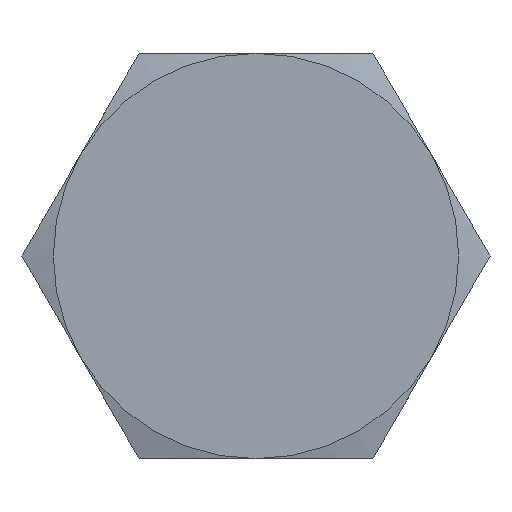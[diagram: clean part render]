
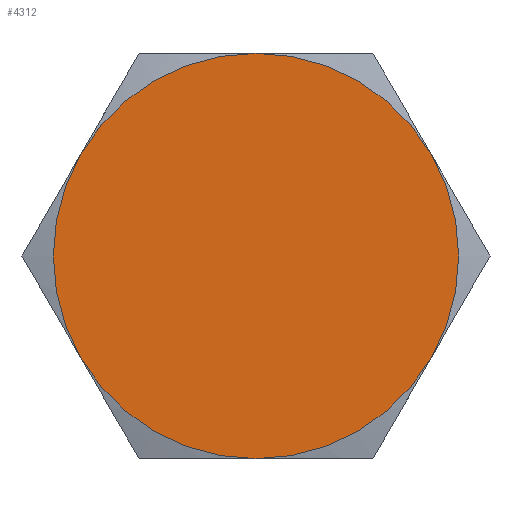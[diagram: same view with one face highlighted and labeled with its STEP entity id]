
A CAD part, left-side view. The second image highlights one B-rep face of the part: STEP entity #4312.
In plain terms, the highlighted planar face has unit normal (-1, 0, 0).
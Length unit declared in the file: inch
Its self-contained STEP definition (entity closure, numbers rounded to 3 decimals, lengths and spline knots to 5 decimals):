
#3922=CARTESIAN_POINT('',(-0.5,-0.70365,0.40625));
#3923=VERTEX_POINT('',#3922);
#3937=CARTESIAN_POINT('',(-0.5,0.0,0.8125));
#3938=VERTEX_POINT('',#3937);
#3952=CARTESIAN_POINT('',(-0.5,0.0,0.));
#3953=DIRECTION('',(-1.0,0.0,0.0));
#3954=DIRECTION('',(0.0,0.0,-1.0));
#3955=AXIS2_PLACEMENT_3D('',#3952,#3953,#3954);
#3956=CIRCLE('',#3955,0.8125);
#3957=EDGE_CURVE('',#3923,#3938,#3956,.T.);
#3969=CARTESIAN_POINT('',(-0.5,-0.70365,-0.40625));
#3970=VERTEX_POINT('',#3969);
#3997=CARTESIAN_POINT('',(-0.5,0.0,0.));
#3998=DIRECTION('',(-1.0,0.0,0.0));
#3999=DIRECTION('',(0.0,0.0,-1.0));
#4000=AXIS2_PLACEMENT_3D('',#3997,#3998,#3999);
#4001=CIRCLE('',#4000,0.8125);
#4002=EDGE_CURVE('',#3970,#3923,#4001,.T.);
#4014=CARTESIAN_POINT('',(-0.5,0.0,-0.8125));
#4015=VERTEX_POINT('',#4014);
#4042=CARTESIAN_POINT('',(-0.5,0.0,0.));
#4043=DIRECTION('',(-1.0,0.0,0.0));
#4044=DIRECTION('',(0.0,0.0,-1.0));
#4045=AXIS2_PLACEMENT_3D('',#4042,#4043,#4044);
#4046=CIRCLE('',#4045,0.8125);
#4047=EDGE_CURVE('',#4015,#3970,#4046,.T.);
#4072=CARTESIAN_POINT('',(-0.5,0.70365,-0.40625));
#4073=VERTEX_POINT('',#4072);
#4074=CARTESIAN_POINT('',(-0.5,0.0,0.));
#4075=DIRECTION('',(-1.0,0.0,0.0));
#4076=DIRECTION('',(0.0,0.0,-1.0));
#4077=AXIS2_PLACEMENT_3D('',#4074,#4075,#4076);
#4078=CIRCLE('',#4077,0.8125);
#4079=EDGE_CURVE('',#4073,#4015,#4078,.T.);
#4117=CARTESIAN_POINT('',(-0.5,0.70365,0.40625));
#4118=VERTEX_POINT('',#4117);
#4119=CARTESIAN_POINT('',(-0.5,0.0,0.));
#4120=DIRECTION('',(-1.0,0.0,0.0));
#4121=DIRECTION('',(0.0,0.0,-1.0));
#4122=AXIS2_PLACEMENT_3D('',#4119,#4120,#4121);
#4123=CIRCLE('',#4122,0.8125);
#4124=EDGE_CURVE('',#4118,#4073,#4123,.T.);
#4162=CARTESIAN_POINT('',(-0.5,0.0,0.));
#4163=DIRECTION('',(-1.0,0.0,0.0));
#4164=DIRECTION('',(0.0,0.0,-1.0));
#4165=AXIS2_PLACEMENT_3D('',#4162,#4163,#4164);
#4166=CIRCLE('',#4165,0.8125);
#4167=EDGE_CURVE('',#3938,#4118,#4166,.T.);
#4299=CARTESIAN_POINT('',(-0.5,0.0,0.));
#4300=DIRECTION('',(1.0,0.0,0.0));
#4301=DIRECTION('',(0.0,0.0,-1.0));
#4302=AXIS2_PLACEMENT_3D('',#4299,#4300,#4301);
#4303=PLANE('',#4302);
#4304=ORIENTED_EDGE('',*,*,#4167,.T.);
#4305=ORIENTED_EDGE('',*,*,#4124,.T.);
#4306=ORIENTED_EDGE('',*,*,#4079,.T.);
#4307=ORIENTED_EDGE('',*,*,#4047,.T.);
#4308=ORIENTED_EDGE('',*,*,#4002,.T.);
#4309=ORIENTED_EDGE('',*,*,#3957,.T.);
#4310=EDGE_LOOP('',(#4304,#4305,#4306,#4307,#4308,#4309));
#4311=FACE_OUTER_BOUND('',#4310,.T.);
#4312=ADVANCED_FACE('',(#4311),#4303,.F.);
